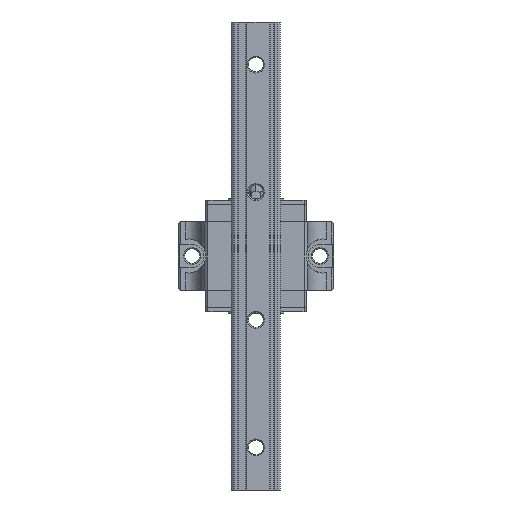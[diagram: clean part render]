
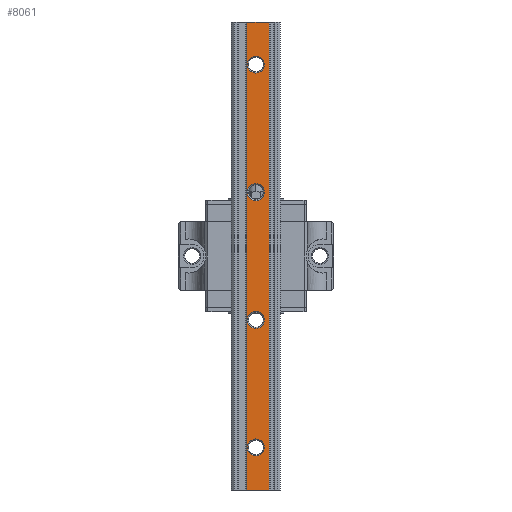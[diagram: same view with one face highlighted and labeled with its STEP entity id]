
A CAD part, front view. The second image highlights one B-rep face of the part: STEP entity #8061.
In plain terms, the highlighted planar face has unit normal (0, -1, 0).
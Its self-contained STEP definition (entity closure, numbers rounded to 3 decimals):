
#118 = CARTESIAN_POINT ( 'NONE',  ( 0., -19.2, -30. ) ) ;
#439 = CARTESIAN_POINT ( 'NONE',  ( -4.3, -19.2, 110. ) ) ;
#612 = EDGE_LOOP ( 'NONE', ( #2399, #4143 ) ) ;
#614 = CARTESIAN_POINT ( 'NONE',  ( -4.3, -19.2, 110. ) ) ;
#792 = VERTEX_POINT ( 'NONE', #14399 ) ;
#904 = CARTESIAN_POINT ( 'NONE',  ( -4.3, -19.2, -110. ) ) ;
#1134 = DIRECTION ( 'NONE',  ( 0., 1., 0. ) ) ;
#1194 = CARTESIAN_POINT ( 'NONE',  ( 0., -19.2, -90. ) ) ;
#1447 = ORIENTED_EDGE ( 'NONE', *, *, #1764, .T. ) ;
#1549 = CARTESIAN_POINT ( 'NONE',  ( -4.3, -19.2, 110. ) ) ;
#1596 = CIRCLE ( 'NONE', #6848, 4. ) ;
#1764 = EDGE_CURVE ( 'NONE', #3877, #1911, #6937, .T. ) ;
#1830 = AXIS2_PLACEMENT_3D ( 'NONE', #9352, #9260, #10724 ) ;
#1911 = VERTEX_POINT ( 'NONE', #904 ) ;
#1913 = VECTOR ( 'NONE', #14549, 1000. ) ;
#2121 = CIRCLE ( 'NONE', #1830, 4. ) ;
#2130 = LINE ( 'NONE', #9058, #1913 ) ;
#2399 = ORIENTED_EDGE ( 'NONE', *, *, #12765, .T. ) ;
#2553 = DIRECTION ( 'NONE',  ( 0., 0., -1. ) ) ;
#2901 = DIRECTION ( 'NONE',  ( 0., 0., 1. ) ) ;
#3428 = ORIENTED_EDGE ( 'NONE', *, *, #8550, .T. ) ;
#3626 = EDGE_CURVE ( 'NONE', #16191, #11822, #4458, .T. ) ;
#3630 = FACE_BOUND ( 'NONE', #9635, .T. ) ;
#3775 = EDGE_CURVE ( 'NONE', #9399, #17794, #2121, .T. ) ;
#3877 = VERTEX_POINT ( 'NONE', #17850 ) ;
#4143 = ORIENTED_EDGE ( 'NONE', *, *, #12812, .T. ) ;
#4355 = CARTESIAN_POINT ( 'NONE',  ( 0., -19.2, 90. ) ) ;
#4458 = CIRCLE ( 'NONE', #16104, 4. ) ;
#4498 = ORIENTED_EDGE ( 'NONE', *, *, #6760, .T. ) ;
#4917 = VECTOR ( 'NONE', #2553, 1000. ) ;
#5037 = DIRECTION ( 'NONE',  ( 0., 0., 1. ) ) ;
#5110 = ORIENTED_EDGE ( 'NONE', *, *, #3775, .T. ) ;
#5595 = VECTOR ( 'NONE', #10280, 1000. ) ;
#5860 = DIRECTION ( 'NONE',  ( 0., 1., 0. ) ) ;
#6009 = DIRECTION ( 'NONE',  ( 0., 1., 0. ) ) ;
#6022 = CARTESIAN_POINT ( 'NONE',  ( 6.3, -19.2, 110. ) ) ;
#6330 = CIRCLE ( 'NONE', #8940, 4. ) ;
#6434 = EDGE_LOOP ( 'NONE', ( #6600, #4498 ) ) ;
#6600 = ORIENTED_EDGE ( 'NONE', *, *, #15674, .T. ) ;
#6678 = CARTESIAN_POINT ( 'NONE',  ( 0., -19.2, -90. ) ) ;
#6760 = EDGE_CURVE ( 'NONE', #13940, #792, #8548, .T. ) ;
#6766 = DIRECTION ( 'NONE',  ( 0., 1., 0. ) ) ;
#6778 = AXIS2_PLACEMENT_3D ( 'NONE', #439, #6009, #11566 ) ;
#6848 = AXIS2_PLACEMENT_3D ( 'NONE', #15008, #1134, #8072 ) ;
#6937 = LINE ( 'NONE', #1549, #17904 ) ;
#7057 = DIRECTION ( 'NONE',  ( 0., 0., 1. ) ) ;
#7092 = DIRECTION ( 'NONE',  ( 0., 0., 1. ) ) ;
#7199 = CIRCLE ( 'NONE', #17401, 4. ) ;
#7375 = PLANE ( 'NONE',  #6778 ) ;
#7657 = CARTESIAN_POINT ( 'NONE',  ( 0., -19.2, 90. ) ) ;
#8009 = EDGE_CURVE ( 'NONE', #3877, #17979, #15754, .T. ) ;
#8061 = ADVANCED_FACE ( 'NONE', ( #15843, #13307, #17144, #3630, #9185 ), #7375, .F. ) ;
#8072 = DIRECTION ( 'NONE',  ( 0., 0., 1. ) ) ;
#8241 = VERTEX_POINT ( 'NONE', #16673 ) ;
#8548 = CIRCLE ( 'NONE', #10892, 4. ) ;
#8550 = EDGE_CURVE ( 'NONE', #17794, #9399, #1596, .T. ) ;
#8806 = CARTESIAN_POINT ( 'NONE',  ( 0., -19.2, -26. ) ) ;
#8940 = AXIS2_PLACEMENT_3D ( 'NONE', #6678, #14971, #9315 ) ;
#9058 = CARTESIAN_POINT ( 'NONE',  ( -4.3, -19.2, -110. ) ) ;
#9185 = FACE_OUTER_BOUND ( 'NONE', #13073, .T. ) ;
#9260 = DIRECTION ( 'NONE',  ( 0., 1., 0. ) ) ;
#9286 = CIRCLE ( 'NONE', #11619, 4. ) ;
#9315 = DIRECTION ( 'NONE',  ( 0., 0., 1. ) ) ;
#9352 = CARTESIAN_POINT ( 'NONE',  ( 0., -19.2, 30. ) ) ;
#9399 = VERTEX_POINT ( 'NONE', #17869 ) ;
#9598 = CARTESIAN_POINT ( 'NONE',  ( 0., -19.2, -86. ) ) ;
#9635 = EDGE_LOOP ( 'NONE', ( #14996, #11920 ) ) ;
#9727 = DIRECTION ( 'NONE',  ( 0., 1., 0. ) ) ;
#9902 = ORIENTED_EDGE ( 'NONE', *, *, #14370, .T. ) ;
#9952 = ORIENTED_EDGE ( 'NONE', *, *, #8009, .F. ) ;
#10280 = DIRECTION ( 'NONE',  ( 1., 0., 0. ) ) ;
#10290 = DIRECTION ( 'NONE',  ( 0., 0., 1. ) ) ;
#10724 = DIRECTION ( 'NONE',  ( 0., 0., 1. ) ) ;
#10892 = AXIS2_PLACEMENT_3D ( 'NONE', #11292, #15393, #2901 ) ;
#10945 = CARTESIAN_POINT ( 'NONE',  ( 6.3, -19.2, -110. ) ) ;
#11292 = CARTESIAN_POINT ( 'NONE',  ( 0., -19.2, -30. ) ) ;
#11566 = DIRECTION ( 'NONE',  ( 0., 0., 1. ) ) ;
#11619 = AXIS2_PLACEMENT_3D ( 'NONE', #7657, #17155, #10290 ) ;
#11822 = VERTEX_POINT ( 'NONE', #13694 ) ;
#11920 = ORIENTED_EDGE ( 'NONE', *, *, #15121, .T. ) ;
#12354 = EDGE_LOOP ( 'NONE', ( #5110, #3428 ) ) ;
#12680 = DIRECTION ( 'NONE',  ( 0., 0., -1. ) ) ;
#12765 = EDGE_CURVE ( 'NONE', #8241, #14488, #6330, .T. ) ;
#12812 = EDGE_CURVE ( 'NONE', #14488, #8241, #7199, .T. ) ;
#13006 = ORIENTED_EDGE ( 'NONE', *, *, #14949, .F. ) ;
#13073 = EDGE_LOOP ( 'NONE', ( #9902, #13006, #9952, #1447 ) ) ;
#13307 = FACE_BOUND ( 'NONE', #612, .T. ) ;
#13526 = CARTESIAN_POINT ( 'NONE',  ( 0., -19.2, 34. ) ) ;
#13694 = CARTESIAN_POINT ( 'NONE',  ( 0., -19.2, 94. ) ) ;
#13752 = VERTEX_POINT ( 'NONE', #10945 ) ;
#13940 = VERTEX_POINT ( 'NONE', #8806 ) ;
#14370 = EDGE_CURVE ( 'NONE', #1911, #13752, #2130, .T. ) ;
#14399 = CARTESIAN_POINT ( 'NONE',  ( 0., -19.2, -34. ) ) ;
#14488 = VERTEX_POINT ( 'NONE', #9598 ) ;
#14546 = CIRCLE ( 'NONE', #15701, 4. ) ;
#14549 = DIRECTION ( 'NONE',  ( 1., 0., 0. ) ) ;
#14949 = EDGE_CURVE ( 'NONE', #17979, #13752, #17812, .T. ) ;
#14971 = DIRECTION ( 'NONE',  ( 0., 1., 0. ) ) ;
#14996 = ORIENTED_EDGE ( 'NONE', *, *, #3626, .T. ) ;
#15008 = CARTESIAN_POINT ( 'NONE',  ( 0., -19.2, 30. ) ) ;
#15121 = EDGE_CURVE ( 'NONE', #11822, #16191, #9286, .T. ) ;
#15393 = DIRECTION ( 'NONE',  ( 0., 1., 0. ) ) ;
#15674 = EDGE_CURVE ( 'NONE', #792, #13940, #14546, .T. ) ;
#15701 = AXIS2_PLACEMENT_3D ( 'NONE', #118, #5860, #7057 ) ;
#15754 = LINE ( 'NONE', #614, #5595 ) ;
#15843 = FACE_BOUND ( 'NONE', #6434, .T. ) ;
#16104 = AXIS2_PLACEMENT_3D ( 'NONE', #4355, #9727, #7092 ) ;
#16191 = VERTEX_POINT ( 'NONE', #17070 ) ;
#16523 = CARTESIAN_POINT ( 'NONE',  ( 6.3, -19.2, 110. ) ) ;
#16673 = CARTESIAN_POINT ( 'NONE',  ( 0., -19.2, -94. ) ) ;
#17070 = CARTESIAN_POINT ( 'NONE',  ( 0., -19.2, 86. ) ) ;
#17144 = FACE_BOUND ( 'NONE', #12354, .T. ) ;
#17155 = DIRECTION ( 'NONE',  ( 0., 1., 0. ) ) ;
#17401 = AXIS2_PLACEMENT_3D ( 'NONE', #1194, #6766, #5037 ) ;
#17794 = VERTEX_POINT ( 'NONE', #13526 ) ;
#17812 = LINE ( 'NONE', #16523, #4917 ) ;
#17850 = CARTESIAN_POINT ( 'NONE',  ( -4.3, -19.2, 110. ) ) ;
#17869 = CARTESIAN_POINT ( 'NONE',  ( 0., -19.2, 26. ) ) ;
#17904 = VECTOR ( 'NONE', #12680, 1000. ) ;
#17979 = VERTEX_POINT ( 'NONE', #6022 ) ;
